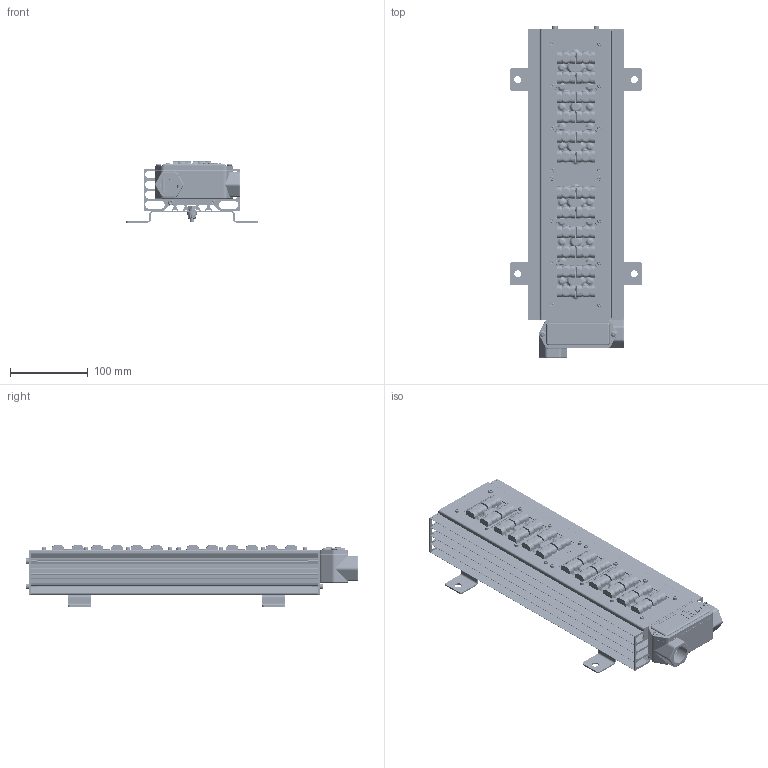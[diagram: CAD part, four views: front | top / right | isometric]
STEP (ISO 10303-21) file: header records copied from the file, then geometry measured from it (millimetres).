
FILE_DESCRIPTION((''),'2;1');
FILE_NAME('C:\Users\A.Yu.Kozyrkov\Desktop\Готовый\СГУ06-6600С_220AC_П.stp','2020-07-09T13:45:51',('A.Yu.Kozyrkov'),(''),'Autodesk Inventor 2012','Autodesk Inventor 2012','');
FILE_SCHEMA(('AUTOMOTIVE_DESIGN { 1 0 10303 214 1 1 1 1 }'));
Length unit declared in the file: millimetre
Products named in the file (1): СГУ06-6600С_220AC_П
Bounding box: 170 x 427.5 x 78.75 mm (x, y, z)
Surface area: 784965.4 mm2 (no closed solid volume)
Topology: 0 solids, 67 shells, 4977 faces, 12865 edges, 8256 vertices
Faces by surface type: plane 1884, cylinder 1129, bspline 638, torus 554, cone 536, revolution 194, sphere 42
Full cylindrical faces by diameter (mm): 0.6 x8, 2.5 x24, 3 x16, 3.2 x45, 3.242 x1, 3.621 x2, 3.85 x2, 3.9 x2, 4 x8, 4.255 x16, 4.5 x16, 4.917 x5, 5.026 x2, 5.459 x5, 5.5 x16, 5.9 x2, 6 x5, 6.4 x5, 6.5 x1, 7 x10, 7.2 x2, 7.3 x2, 8.7 x5, 9 x4, 9.4 x2, 10 x25, 12 x5, 24.1 x1, 24.117 x1
Entity records: 211937 total; most frequent: CARTESIAN_POINT 93509, ORIENTED_EDGE 23958, DIRECTION 21696, EDGE_CURVE 11979, AXIS2_PLACEMENT_3D 8274, VERTEX_POINT 8012, EDGE_LOOP 6133, VECTOR 4954
